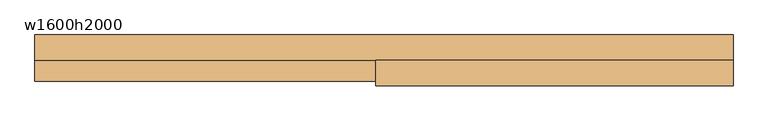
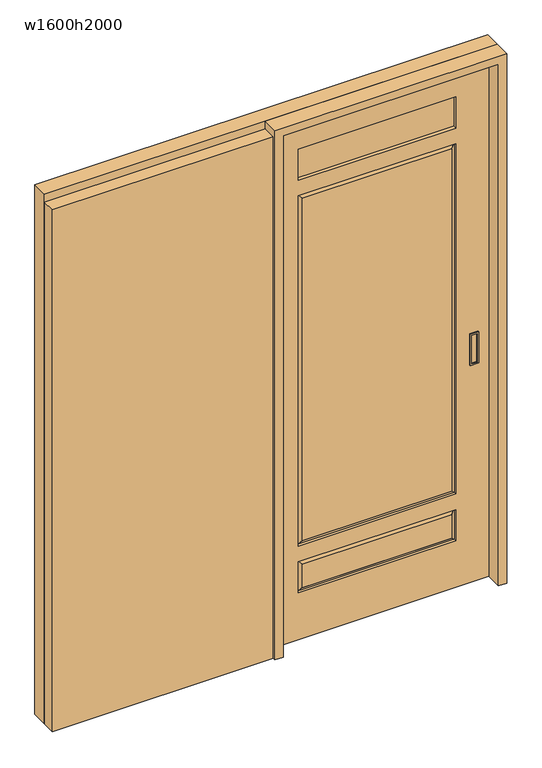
"""IFC4 building model written with IfcOpenShell, lengths in millimetres: door geometry, 片引戸CL2017 : w1600h2000."""

from ifc_helpers import new_model, si_unit, frame, origin, origin_with_axes, place, context, project, spatial, polyline, outline, extrude, faceted_brep, source, transform, mapped, element, save


def w1600h2000_ca690e72(model_context):
    return source(origin(), model_context, "Body", "SolidModel", [
        faceted_brep([(755.0, -5.0, 960.0), (725.0, -5.0, 960.0), (725.0, -5.0, 840.0), (755.0, -5.0, 840.0), (730.0, -5.0, 955.0), (750.0, -5.0, 955.0), (750.0, -5.0, 845.0), (730.0, -5.0, 845.0), (755.0, 35.0, 960.0), (755.0, 35.0, 840.0), (725.0, 35.0, 840.0), (725.0, 35.0, 960.0), (730.0, 35.0, 845.0), (750.0, 35.0, 845.0), (750.0, 35.0, 955.0), (730.0, 35.0, 955.0), (730.0, -1.0, 955.0), (730.0, -1.0, 845.0), (730.0, 31.0, 845.0), (730.0, 31.0, 955.0), (750.0, -1.0, 955.0), (750.0, -1.0, 845.0), (750.0, 31.0, 845.0), (750.0, 31.0, 955.0)], [[[0, 1, 2, 3], [4, 5, 6, 7]], [[8, 9, 10, 11], [12, 13, 14, 15]], [[3, 9, 8, 0]], [[2, 10, 9, 3]], [[1, 11, 10, 2]], [[0, 8, 11, 1]], [[16, 4, 7, 17]], [[18, 12, 15, 19]], [[20, 21, 6, 5]], [[22, 23, 14, 13]], [[16, 20, 5, 4]], [[7, 6, 21, 17]], [[17, 21, 20, 16]], [[18, 22, 13, 12]], [[15, 14, 23, 19]], [[19, 23, 22, 18]]]),
        extrude(outline(polyline([(0.0, 795.0), (2010.0, 795.0), (2010.0, -20.0), (0.0, -20.0), (0.0, 795.0)]), holes=[polyline([(1770.0, 675.0), (1770.0, 100.0), (1890.0, 100.0), (1890.0, 675.0), (1770.0, 675.0)]), polyline([(300.0, 100.0), (300.0, 675.0), (180.0, 675.0), (180.0, 100.0), (300.0, 100.0)]), polyline([(360.0, 675.0), (360.0, 100.0), (1710.0, 100.0), (1710.0, 675.0), (360.0, 675.0)])]), frame((0.0, 0.0, 0.0), z_axis=(0.0, 1.0, 0.0), x_axis=(0.0, 0.0, 1.0)), (0.0, 0.0, 1.0), 30.0),
        extrude(outline(polyline([(675.0, 17.5), (675.0, 12.5), (100.0, 12.5), (100.0, 17.5), (675.0, 17.5)])), frame((0.0, 0.0, 1770.0), z_axis=(0.0, 0.0, 1.0), x_axis=(1.0, 0.0, 0.0)), (0.0, 0.0, 1.0), 120.0),
        extrude(outline(polyline([(660.0, 30.0), (660.0, 0.0), (115.0, 0.0), (115.0, 30.0), (660.0, 30.0)])), frame((0.0, 0.0, 195.0), z_axis=(0.0, 0.0, 1.0), x_axis=(1.0, 0.0, 0.0)), (0.0, 0.0, 1.0), 90.0),
        extrude(outline(polyline([(660.0, 30.0), (660.0, 0.0), (115.0, 0.0), (115.0, 30.0), (660.0, 30.0)])), frame((0.0, 0.0, 375.0), z_axis=(0.0, 0.0, 1.0), x_axis=(1.0, 0.0, 0.0)), (0.0, 0.0, 1.0), 1320.0),
        faceted_brep([(100.0, 20.0, 1710.0), (100.0, 20.0, 360.0), (100.0, 10.0, 360.0), (100.0, 10.0, 1710.0), (115.0, 30.0, 1695.0), (115.0, 30.0, 375.0), (115.0, 0.0, 1695.0), (115.0, 0.0, 375.0), (675.0, 20.0, 360.0), (675.0, 10.0, 360.0), (660.0, 30.0, 375.0), (660.0, 0.0, 375.0), (675.0, 20.0, 1710.0), (675.0, 10.0, 1710.0), (660.0, 30.0, 1695.0), (660.0, 0.0, 1695.0)], [[[0, 1, 2, 3]], [[4, 5, 1, 0]], [[6, 7, 5, 4]], [[3, 2, 7, 6]], [[1, 8, 9, 2]], [[5, 10, 8, 1]], [[7, 11, 10, 5]], [[2, 9, 11, 7]], [[8, 12, 13, 9]], [[10, 14, 12, 8]], [[11, 15, 14, 10]], [[9, 13, 15, 11]], [[12, 0, 3, 13]], [[14, 4, 0, 12]], [[15, 6, 4, 14]], [[13, 3, 6, 15]]]),
        faceted_brep([(115.0, 0.0, 195.0), (115.0, 0.0, 285.0), (100.0, 10.0, 300.0), (100.0, 10.0, 180.0), (115.0, 30.0, 195.0), (115.0, 30.0, 285.0), (100.0, 20.0, 180.0), (100.0, 20.0, 300.0), (660.0, 0.0, 285.0), (675.0, 10.0, 300.0), (660.0, 30.0, 285.0), (675.0, 20.0, 300.0), (660.0, 0.0, 195.0), (675.0, 10.0, 180.0), (660.0, 30.0, 195.0), (675.0, 20.0, 180.0)], [[[0, 1, 2, 3]], [[4, 5, 1, 0]], [[6, 7, 5, 4]], [[3, 2, 7, 6]], [[1, 8, 9, 2]], [[5, 10, 8, 1]], [[7, 11, 10, 5]], [[2, 9, 11, 7]], [[8, 12, 13, 9]], [[10, 14, 12, 8]], [[11, 15, 14, 10]], [[9, 13, 15, 11]], [[12, 0, 3, 13]], [[14, 4, 0, 12]], [[15, 6, 4, 14]], [[13, 3, 6, 15]]]),
        extrude(outline(polyline([(0.0, 825.0), (2040.0, 825.0), (2040.0, -20.0), (0.0, -20.0), (0.0, 10.0), (2010.0, 10.0), (2010.0, 795.0), (0.0, 795.0), (0.0, 825.0)])), frame((0.0, -60.0, 0.0), z_axis=(0.0, 1.0, 0.0), x_axis=(0.0, 0.0, 1.0)), (0.0, 0.0, 1.0), 60.0),
        extrude(outline(polyline([(0.0, 825.0), (2040.0, 825.0), (2040.0, -825.0), (0.0, -825.0), (0.0, -795.0), (2010.0, -795.0), (2010.0, 795.0), (0.0, 795.0), (0.0, 825.0)])), frame((0.0, 0.0, 0.0), z_axis=(0.0, 1.0, 0.0), x_axis=(0.0, 0.0, 1.0)), (0.0, 0.0, 1.0), 60.0),
        extrude(outline(polyline([(-20.0, 0.0), (-20.0, -50.0), (-825.0, -50.0), (-825.0, 0.0), (-20.0, 0.0)])), origin_with_axes(), (0.0, 0.0, 1.0), 2010.0),
    ])


if __name__ == "__main__":
    model = new_model("IFC4")
    model_context = context("Model", 3, world=origin())
    ifc_project = project(units=[si_unit("LENGTHUNIT", "METRE", prefix="MILLI")], contexts=[model_context])
    site = spatial("IfcSite", under=ifc_project)
    building = spatial("IfcBuilding", under=site)
    placement = place(None, origin())
    w1600h2000_shape = w1600h2000_ca690e72(model_context)
    element("IfcDoor", 1, ObjectType="片引戸CL2017 : w1600h2000", at=placement, inside=building, context=model_context, shape_type="MappedRepresentation", body=[
        mapped(w1600h2000_shape, transform((0.0, 0.0, 0.0), x_axis=(1.0, 0.0, 0.0), y_axis=(0.0, 1.0, 0.0), z_axis=(0.0, 0.0, 1.0))),
    ])
    save(model, "model.ifc")
